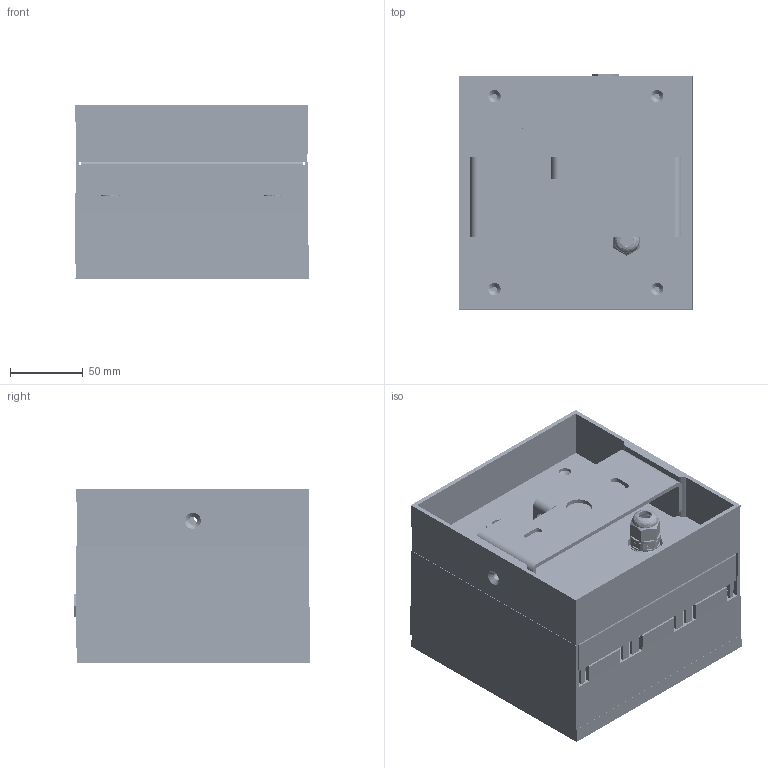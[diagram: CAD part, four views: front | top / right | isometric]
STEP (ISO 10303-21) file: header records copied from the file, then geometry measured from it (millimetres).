
FILE_DESCRIPTION((''),'2;1');
FILE_NAME('B8FLB0958_ASM','2025-03-04T',('Administrator'),(''),'CREO PARAMETRIC BY PTC INC, 2015200','CREO PARAMETRIC BY PTC INC, 2015200','');
FILE_SCHEMA(('CONFIG_CONTROL_DESIGN'));
Products named in the file (18): 3FL-1A; PRT0003; 3FL-_-190420_14_1_2_1; 8FL-BOLI; 3FL-_-190812_1_1_2_1; 3FL-2A; PRODUCT_219297_2; 3FL-GYB; B49-A; B49_; B49-AB_ASM; B49-AW_ASM; PRT0005_3_1; PRT0006_1; PGB9___2_2_3; PRT0001_13_1; M12-LM; B8FLB0958_ASM
Assembly tree (19 placements, depth 4):
  B8FLB0958_ASM
    3FL-1A
    PRT0003
    3FL-_-190420_14_1_2_1
    8FL-BOLI
    3FL-_-190812_1_1_2_1
    3FL-2A
    PRODUCT_219297_2
    B49-AW_ASM
      3FL-GYB
      B49-AB_ASM  x3
        B49-A
        B49_
    PRT0005_3_1
    PRT0006_1
    PGB9___2_2_3
    PRT0001_13_1
    M12-LM
Bounding box: 160.76 x 162.4 x 118.85 mm (x, y, z)
Volume: 1000708.6 mm3; surface area: 600746.2 mm2
Topology: 19 solids, 19 shells, 9899 faces, 31369 edges, 21525 vertices
Faces by surface type: plane 2716, cone 2689, cylinder 1756, bspline 1585, torus 900, extrusion 225, revolution 28
Entity records: 212493 total; most frequent: CARTESIAN_POINT 97812, ORIENTED_EDGE 27766, DIRECTION 18628, EDGE_CURVE 13883, VERTEX_POINT 9405, AXIS2_PLACEMENT_3D 6783, B_SPLINE_CURVE_WITH_KNOTS 6198, VECTOR 5034
